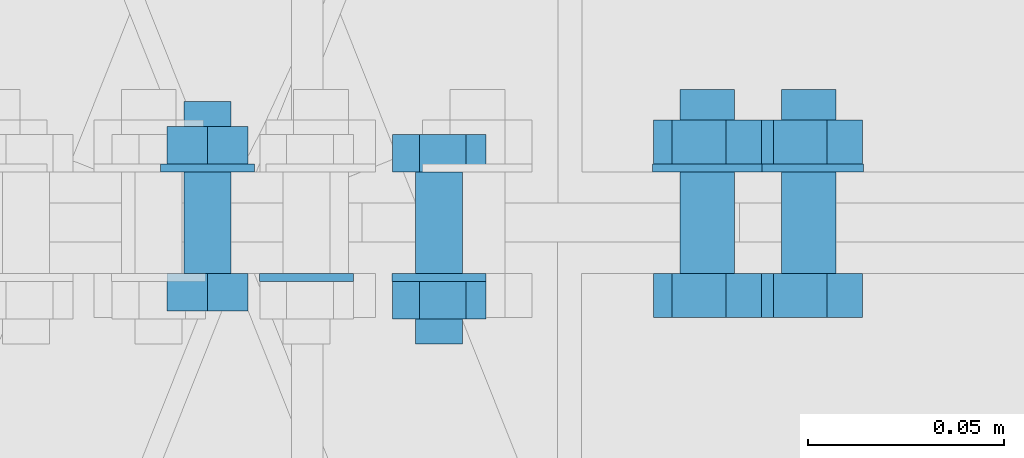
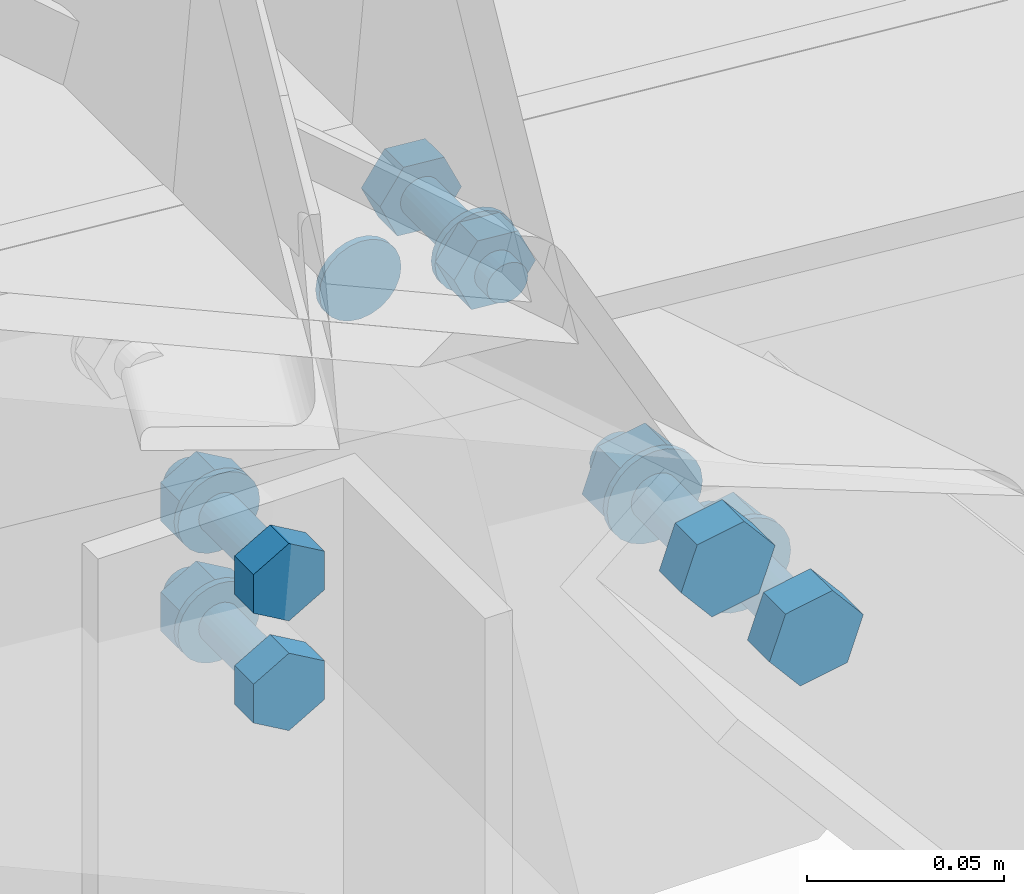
# One storey, part 159 of 251: 21 mechanical fasteners.
"""IFC4 building model written with IfcOpenShell, lengths in metres."""

from ifc_helpers import new_model, si_unit, frame, origin_with_axes, place, context, project, spatial, polyline, outline, extrude, type_object, element, save


model = new_model("IFC4")

# Units and contexts
model_context = context("Model", 3, precision=1e-05, world=origin_with_axes())
ifc_project = project(units=[si_unit("LENGTHUNIT", "METRE"), si_unit("AREAUNIT", "SQUARE_METRE"), si_unit("VOLUMEUNIT", "CUBIC_METRE"), si_unit("MASSUNIT", "GRAM", prefix="KILO"), si_unit("TIMEUNIT", "SECOND"), si_unit("PLANEANGLEUNIT", "RADIAN"), si_unit("SOLIDANGLEUNIT", "STERADIAN"), si_unit("THERMODYNAMICTEMPERATUREUNIT", "DEGREE_CELSIUS")], contexts=[model_context])

# Site, building, storey
placement_1 = place(None, origin_with_axes())
site = spatial("IfcSite", under=ifc_project, at=placement_1, Name="Italia", CompositionType="ELEMENT")
building = spatial("IfcBuilding", under=site, at=placement_1, Name="Deposito", CompositionType="ELEMENT")
storey = spatial("IfcBuildingStorey", under=building, at=placement_1, Name="Storey 0", CompositionType="ELEMENT", Elevation=0.0)

# Mechanical fasteners
mechanical_fastener_type_1 = type_object("IfcMechanicalFastenerType", Name="Reticolare 4", PredefinedType="BOLT")
placement_2 = place(placement_1, origin_with_axes())
mechanical_fastener_1_placement = place(placement_2, origin_with_axes())
element("IfcMechanicalFastener", 1, at=mechanical_fastener_1_placement, inside=storey, type_object=mechanical_fastener_type_1, Name="Reticolare 4", NominalDiameter=0.024, context=model_context, shape_type="SweptSolid", body=[
    extrude(outline(polyline([(0.0, 0.0), (-0.000408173, -0.00310564), (-0.00160599, -0.00600004), (-0.00351334, -0.00848532), (-0.00599861, -0.0103922), (-0.00889397, -0.011591), (-0.0119991, -0.0120001), (-0.0151043, -0.011591), (-0.0179996, -0.0103922), (-0.0204849, -0.00848532), (-0.0223923, -0.00600004), (-0.0235901, -0.00310564), (-0.0239983, 0.0), (-0.0235901, 0.00310564), (-0.0223923, 0.00600004), (-0.0204849, 0.00848532), (-0.0179996, 0.0103922), (-0.0151043, 0.011591), (-0.0119991, 0.0120001), (-0.00889397, 0.011591), (-0.00599861, 0.0103922), (-0.00351334, 0.00848532), (-0.00160599, 0.00600004), (-0.000408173, 0.00310564), (0.0, 0.0)])), frame((18.0139, 9.985, 6.16568), z_axis=(0.0, 1.0, 0.0), x_axis=(-1.0, 0.0, 0.0)), (0.0, 0.0, 1.0), 0.00200081),
])
mechanical_fastener_type_2 = type_object("IfcMechanicalFastenerType", Name="Reticolare 4", PredefinedType="BOLT")
mechanical_fastener_2_placement = place(placement_2, origin_with_axes())
element("IfcMechanicalFastener", 2, at=mechanical_fastener_2_placement, inside=storey, type_object=mechanical_fastener_type_2, Name="Reticolare 4", NominalDiameter=0.011999, context=model_context, shape_type="SweptSolid", body=[
    extrude(outline(polyline([(0.0, 0.0), (0.0119534, 0.0010457), (0.018837, -0.00878382), (0.0137653, -0.0196595), (0.00181007, -0.0207052), (-0.00507164, -0.0108757), (0.0, 0.0)])), frame((18.0667, 10.013, 6.17255), z_axis=(0.0, 1.0, 0.0), x_axis=(-1.0, 0.0, 0.0)), (0.0, 0.0, 1.0), 0.00960064),
])
mechanical_fastener_type_3 = type_object("IfcMechanicalFastenerType", Name="Reticolare 4", PredefinedType="BOLT")
mechanical_fastener_3_placement = place(placement_2, origin_with_axes())
element("IfcMechanicalFastener", 3, at=mechanical_fastener_3_placement, inside=storey, type_object=mechanical_fastener_type_3, Name="Reticolare 4", NominalDiameter=0.012, context=model_context, shape_type="SweptSolid", body=[
    extrude(outline(polyline([(0.0, 0.0), (-0.000204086, -0.00155306), (-0.000804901, -0.00299978), (-0.00175858, -0.00424242), (-0.00300026, -0.00519609), (-0.00444794, -0.00579548), (-0.00600052, -0.00600004), (-0.0075531, -0.00579548), (-0.00900078, -0.00519609), (-0.0102425, -0.00424242), (-0.0111961, -0.00299978), (-0.011797, -0.00155306), (-0.012001, 0.0), (-0.011797, 0.00155306), (-0.0111961, 0.00299978), (-0.0102425, 0.00424242), (-0.00900078, 0.00519609), (-0.0075531, 0.00579548), (-0.00600052, 0.00600004), (-0.00444794, 0.00579548), (-0.00300026, 0.00519609), (-0.00175858, 0.00424242), (-0.000804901, 0.00299978), (-0.000204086, 0.00155306), (0.0, 0.0)])), frame((18.0538, 9.969, 6.16272), z_axis=(0.0, 1.0, 0.0), x_axis=(-1.0, 0.0, 0.0)), (0.0, 0.0, 1.0), 0.0439997),
])
mechanical_fastener_type_4 = type_object("IfcMechanicalFastenerType", Name="Reticolare 4", PredefinedType="BOLT")
mechanical_fastener_4_placement = place(placement_2, origin_with_axes())
element("IfcMechanicalFastener", 4, at=mechanical_fastener_4_placement, inside=storey, type_object=mechanical_fastener_type_4, Name="Reticolare 4", NominalDiameter=0.011999, context=model_context, shape_type="SweptSolid", body=[
    extrude(outline(polyline([(0.0, 0.0), (0.0119534, 0.0010457), (0.018837, -0.00878382), (0.0137653, -0.0196595), (0.00181007, -0.0207052), (-0.00507164, -0.0108757), (0.0, 0.0)])), frame((18.0667, 9.9754, 6.17255), z_axis=(0.0, 1.0, 0.0), x_axis=(-1.0, 0.0, 0.0)), (0.0, 0.0, 1.0), 0.00959969),
])
mechanical_fastener_type_5 = type_object("IfcMechanicalFastenerType", Name="Reticolare 4", PredefinedType="BOLT")
mechanical_fastener_5_placement = place(placement_2, origin_with_axes())
element("IfcMechanicalFastener", 5, at=mechanical_fastener_5_placement, inside=storey, type_object=mechanical_fastener_type_5, Name="Reticolare 4", NominalDiameter=0.024, context=model_context, shape_type="SweptSolid", body=[
    extrude(outline(polyline([(0.0, 0.0), (-0.000408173, -0.00310564), (-0.00160599, -0.00600004), (-0.00351334, -0.00848532), (-0.00599861, -0.0103922), (-0.00889397, -0.011591), (-0.0119991, -0.0120001), (-0.0151043, -0.011591), (-0.0179996, -0.0103922), (-0.0204849, -0.00848532), (-0.0223923, -0.00600004), (-0.0235901, -0.00310564), (-0.0239983, 0.0), (-0.0235901, 0.00310564), (-0.0223923, 0.00600004), (-0.0204849, 0.00848532), (-0.0179996, 0.0103922), (-0.0151043, 0.011591), (-0.0119991, 0.0120001), (-0.00889397, 0.011591), (-0.00599861, 0.0103922), (-0.00351334, 0.00848532), (-0.00160599, 0.00600004), (-0.000408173, 0.00310564), (0.0, 0.0)])), frame((18.0478, 9.985, 6.16272), z_axis=(0.0, 1.0, 0.0), x_axis=(-1.0, 0.0, 0.0)), (0.0, 0.0, 1.0), 0.00200081),
])
mechanical_fastener_type_6 = type_object("IfcMechanicalFastenerType", Name="Reticolare 4", PredefinedType="BOLT")
mechanical_fastener_6_placement = place(placement_2, origin_with_axes())
element("IfcMechanicalFastener", 6, at=mechanical_fastener_6_placement, inside=storey, type_object=mechanical_fastener_type_6, Name="Reticolare 4", NominalDiameter=0.0120001, context=model_context, shape_type="SweptSolid", body=[
    extrude(outline(polyline([(0.0, 0.0), (0.0, -0.0120001), (-0.0103931, -0.0180001), (-0.0207863, -0.0120001), (-0.0207863, 0.0), (-0.0103931, 0.00600004), (0.0, 0.0)])), frame((18.011, 9.987, 6.09155), z_axis=(0.0, -1.0, 0.0), x_axis=(1.0, 0.0, 0.0)), (0.0, 0.0, 1.0), 0.00960064),
])
mechanical_fastener_type_7 = type_object("IfcMechanicalFastenerType", Name="Reticolare 4", PredefinedType="BOLT")
mechanical_fastener_7_placement = place(placement_2, origin_with_axes())
element("IfcMechanicalFastener", 7, at=mechanical_fastener_7_placement, inside=storey, type_object=mechanical_fastener_type_7, Name="Reticolare 4", NominalDiameter=0.012, context=model_context, shape_type="SweptSolid", body=[
    extrude(outline(polyline([(0.0, 0.0), (-0.000204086, -0.00155306), (-0.000804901, -0.00299978), (-0.00175858, -0.00424242), (-0.00300026, -0.00519609), (-0.00444794, -0.00579548), (-0.00600052, -0.00600004), (-0.0075531, -0.00579548), (-0.00900078, -0.00519609), (-0.0102425, -0.00424242), (-0.0111961, -0.00299978), (-0.011797, -0.00155306), (-0.012001, 0.0), (-0.011797, 0.00155306), (-0.0111961, 0.00299978), (-0.0102425, 0.00424242), (-0.00900078, 0.00519609), (-0.0075531, 0.00579548), (-0.00600052, 0.00600004), (-0.00444794, 0.00579548), (-0.00300026, 0.00519609), (-0.00175858, 0.00424242), (-0.000804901, 0.00299978), (-0.000204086, 0.00155306), (0.0, 0.0)])), frame((18.0066, 10.031, 6.08555), z_axis=(0.0, -1.0, 0.0), x_axis=(1.0, 0.0, 0.0)), (0.0, 0.0, 1.0), 0.0439997),
])
mechanical_fastener_type_8 = type_object("IfcMechanicalFastenerType", Name="Reticolare 4", PredefinedType="BOLT")
mechanical_fastener_8_placement = place(placement_2, origin_with_axes())
element("IfcMechanicalFastener", 8, at=mechanical_fastener_8_placement, inside=storey, type_object=mechanical_fastener_type_8, Name="Reticolare 4", NominalDiameter=0.0120001, context=model_context, shape_type="SweptSolid", body=[
    extrude(outline(polyline([(0.0, 0.0), (0.0, -0.0120001), (-0.0103931, -0.0180001), (-0.0207863, -0.0120001), (-0.0207863, 0.0), (-0.0103931, 0.00600004), (0.0, 0.0)])), frame((18.011, 10.0246, 6.09155), z_axis=(0.0, -1.0, 0.0), x_axis=(1.0, 0.0, 0.0)), (0.0, 0.0, 1.0), 0.00959969),
])
mechanical_fastener_type_9 = type_object("IfcMechanicalFastenerType", Name="Reticolare 4", PredefinedType="BOLT")
mechanical_fastener_9_placement = place(placement_2, origin_with_axes())
element("IfcMechanicalFastener", 9, at=mechanical_fastener_9_placement, inside=storey, type_object=mechanical_fastener_type_9, Name="Reticolare 4", NominalDiameter=0.024, context=model_context, shape_type="SweptSolid", body=[
    extrude(outline(polyline([(0.0, 0.0), (-0.000408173, -0.00310564), (-0.00160599, -0.00600004), (-0.00351334, -0.00848532), (-0.00599861, -0.0103922), (-0.00889397, -0.011591), (-0.0119991, -0.0120001), (-0.0151043, -0.011591), (-0.0179996, -0.0103922), (-0.0204849, -0.00848532), (-0.0223923, -0.00600004), (-0.0235901, -0.00310564), (-0.0239983, 0.0), (-0.0235901, 0.00310564), (-0.0223923, 0.00600004), (-0.0204849, 0.00848532), (-0.0179996, 0.0103922), (-0.0151043, 0.011591), (-0.0119991, 0.0120001), (-0.00889397, 0.011591), (-0.00599861, 0.0103922), (-0.00351334, 0.00848532), (-0.00160599, 0.00600004), (-0.000408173, 0.00310564), (0.0, 0.0)])), frame((18.0126, 10.015, 6.08555), z_axis=(0.0, -1.0, 0.0), x_axis=(1.0, 0.0, 0.0)), (0.0, 0.0, 1.0), 0.00200081),
])
mechanical_fastener_type_10 = type_object("IfcMechanicalFastenerType", Name="Reticolare 4", PredefinedType="BOLT")
mechanical_fastener_10_placement = place(placement_2, origin_with_axes())
element("IfcMechanicalFastener", 10, at=mechanical_fastener_10_placement, inside=storey, type_object=mechanical_fastener_type_10, Name="Reticolare 4", NominalDiameter=0.0120001, context=model_context, shape_type="SweptSolid", body=[
    extrude(outline(polyline([(0.0, 0.0), (0.0, -0.0120001), (-0.0103931, -0.0180001), (-0.0207863, -0.0120001), (-0.0207863, 0.0), (-0.0103931, 0.00600004), (0.0, 0.0)])), frame((18.011, 9.987, 6.05755), z_axis=(0.0, -1.0, 0.0), x_axis=(1.0, 0.0, 0.0)), (0.0, 0.0, 1.0), 0.00960064),
])
mechanical_fastener_type_11 = type_object("IfcMechanicalFastenerType", Name="Reticolare 4", PredefinedType="BOLT")
mechanical_fastener_11_placement = place(placement_2, origin_with_axes())
element("IfcMechanicalFastener", 11, at=mechanical_fastener_11_placement, inside=storey, type_object=mechanical_fastener_type_11, Name="Reticolare 4", NominalDiameter=0.012, context=model_context, shape_type="SweptSolid", body=[
    extrude(outline(polyline([(0.0, 0.0), (-0.000204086, -0.00155306), (-0.000804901, -0.00299978), (-0.00175858, -0.00424242), (-0.00300026, -0.00519609), (-0.00444794, -0.00579548), (-0.00600052, -0.00600004), (-0.0075531, -0.00579548), (-0.00900078, -0.00519609), (-0.0102425, -0.00424242), (-0.0111961, -0.00299978), (-0.011797, -0.00155306), (-0.012001, 0.0), (-0.011797, 0.00155306), (-0.0111961, 0.00299978), (-0.0102425, 0.00424242), (-0.00900078, 0.00519609), (-0.0075531, 0.00579548), (-0.00600052, 0.00600004), (-0.00444794, 0.00579548), (-0.00300026, 0.00519609), (-0.00175858, 0.00424242), (-0.000804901, 0.00299978), (-0.000204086, 0.00155306), (0.0, 0.0)])), frame((18.0066, 10.031, 6.05155), z_axis=(0.0, -1.0, 0.0), x_axis=(1.0, 0.0, 0.0)), (0.0, 0.0, 1.0), 0.0439997),
])
mechanical_fastener_type_12 = type_object("IfcMechanicalFastenerType", Name="Reticolare 4", PredefinedType="BOLT")
mechanical_fastener_12_placement = place(placement_2, origin_with_axes())
element("IfcMechanicalFastener", 12, at=mechanical_fastener_12_placement, inside=storey, type_object=mechanical_fastener_type_12, Name="Reticolare 4", NominalDiameter=0.0120001, context=model_context, shape_type="SweptSolid", body=[
    extrude(outline(polyline([(0.0, 0.0), (0.0, -0.0120001), (-0.0103931, -0.0180001), (-0.0207863, -0.0120001), (-0.0207863, 0.0), (-0.0103931, 0.00600004), (0.0, 0.0)])), frame((18.011, 10.0246, 6.05755), z_axis=(0.0, -1.0, 0.0), x_axis=(1.0, 0.0, 0.0)), (0.0, 0.0, 1.0), 0.00959969),
])
mechanical_fastener_type_13 = type_object("IfcMechanicalFastenerType", Name="Reticolare 4", PredefinedType="BOLT")
mechanical_fastener_13_placement = place(placement_2, origin_with_axes())
element("IfcMechanicalFastener", 13, at=mechanical_fastener_13_placement, inside=storey, type_object=mechanical_fastener_type_13, Name="Reticolare 4", NominalDiameter=0.024, context=model_context, shape_type="SweptSolid", body=[
    extrude(outline(polyline([(0.0, 0.0), (-0.000408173, -0.00310564), (-0.00160599, -0.00600004), (-0.00351334, -0.00848532), (-0.00599861, -0.0103922), (-0.00889397, -0.011591), (-0.0119991, -0.0120001), (-0.0151043, -0.011591), (-0.0179996, -0.0103922), (-0.0204849, -0.00848532), (-0.0223923, -0.00600004), (-0.0235901, -0.00310564), (-0.0239983, 0.0), (-0.0235901, 0.00310564), (-0.0223923, 0.00600004), (-0.0204849, 0.00848532), (-0.0179996, 0.0103922), (-0.0151043, 0.011591), (-0.0119991, 0.0120001), (-0.00889397, 0.011591), (-0.00599861, 0.0103922), (-0.00351334, 0.00848532), (-0.00160599, 0.00600004), (-0.000408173, 0.00310564), (0.0, 0.0)])), frame((18.0126, 10.015, 6.05155), z_axis=(0.0, -1.0, 0.0), x_axis=(1.0, 0.0, 0.0)), (0.0, 0.0, 1.0), 0.00200081),
])
mechanical_fastener_type_14 = type_object("IfcMechanicalFastenerType", Name="Reticolare 4", PredefinedType="BOLT")
mechanical_fastener_14_placement = place(placement_2, origin_with_axes())
element("IfcMechanicalFastener", 14, at=mechanical_fastener_14_placement, inside=storey, type_object=mechanical_fastener_type_14, Name="Reticolare 4", NominalDiameter=0.013999, context=model_context, shape_type="SweptSolid", body=[
    extrude(outline(polyline([(0.0, 0.0), (-0.009058, 0.0106759), (-0.00433922, 0.0238571), (0.00943375, 0.0263624), (0.0184898, 0.0156865), (0.013773, 0.0025053), (0.0, 0.0)])), frame((18.1237, 9.987, 6.03264), z_axis=(0.0, -1.0, 0.0), x_axis=(1.0, 0.0, 0.0)), (0.0, 0.0, 1.0), 0.0112009),
])
mechanical_fastener_type_15 = type_object("IfcMechanicalFastenerType", Name="Reticolare 4", PredefinedType="BOLT")
mechanical_fastener_15_placement = place(placement_2, origin_with_axes())
element("IfcMechanicalFastener", 15, at=mechanical_fastener_15_placement, inside=storey, type_object=mechanical_fastener_type_15, Name="Reticolare 4", NominalDiameter=0.014, context=model_context, shape_type="SweptSolid", body=[
    extrude(outline(polyline([(0.0, 0.0), (-0.000238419, -0.0018115), (-0.000938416, -0.00349998), (-0.0020504, -0.00494957), (-0.00349998, -0.00606203), (-0.00518799, -0.00676155), (-0.00699997, -0.00699997), (-0.00881195, -0.00676155), (-0.0105, -0.00606203), (-0.0119495, -0.00494957), (-0.0130615, -0.00349998), (-0.0137615, -0.0018115), (-0.0139999, 0.0), (-0.0137615, 0.0018115), (-0.0130615, 0.00349998), (-0.0119495, 0.00494957), (-0.0105, 0.00606203), (-0.00881195, 0.00676155), (-0.00699997, 0.00699997), (-0.00518799, 0.00676155), (-0.00349998, 0.00606203), (-0.0020504, 0.00494957), (-0.000938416, 0.00349998), (-0.000238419, 0.0018115), (0.0, 0.0)])), frame((18.1354, 10.034, 6.04582), z_axis=(0.0, -1.0, 0.0), x_axis=(1.0, 0.0, 0.0)), (0.0, 0.0, 1.0), 0.0469999),
])
mechanical_fastener_type_16 = type_object("IfcMechanicalFastenerType", Name="Reticolare 4", PredefinedType="BOLT")
mechanical_fastener_16_placement = place(placement_2, origin_with_axes())
element("IfcMechanicalFastener", 16, at=mechanical_fastener_16_placement, inside=storey, type_object=mechanical_fastener_type_16, Name="Reticolare 4", NominalDiameter=0.013999, context=model_context, shape_type="SweptSolid", body=[
    extrude(outline(polyline([(0.0, 0.0), (-0.009058, 0.0106759), (-0.00433922, 0.0238571), (0.00943375, 0.0263624), (0.0184898, 0.0156865), (0.013773, 0.0025053), (0.0, 0.0)])), frame((18.1237, 10.0262, 6.03264), z_axis=(0.0, -1.0, 0.0), x_axis=(1.0, 0.0, 0.0)), (0.0, 0.0, 1.0), 0.0112),
])
mechanical_fastener_type_17 = type_object("IfcMechanicalFastenerType", Name="Reticolare 4", PredefinedType="BOLT")
mechanical_fastener_17_placement = place(placement_2, origin_with_axes())
element("IfcMechanicalFastener", 17, at=mechanical_fastener_17_placement, inside=storey, type_object=mechanical_fastener_type_17, Name="Reticolare 4", NominalDiameter=0.028, context=model_context, shape_type="SweptSolid", body=[
    extrude(outline(polyline([(0.0, 0.0), (-0.000476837, -0.00362349), (-0.00187492, -0.00699997), (-0.0041008, -0.00989962), (-0.00699997, -0.0121245), (-0.010376, -0.0135231), (-0.0139999, -0.0139999), (-0.0176239, -0.0135231), (-0.0209999, -0.0121245), (-0.0238991, -0.00989962), (-0.026125, -0.00699997), (-0.027523, -0.00362349), (-0.0279999, 0.0), (-0.027523, 0.00362349), (-0.026125, 0.00699997), (-0.0238991, 0.00989962), (-0.0209999, 0.0121245), (-0.0176239, 0.0135231), (-0.0139999, 0.0139999), (-0.010376, 0.0135231), (-0.00699997, 0.0121245), (-0.0041008, 0.00989962), (-0.00187492, 0.00699997), (-0.000476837, 0.00362349), (0.0, 0.0)])), frame((18.1424, 10.015, 6.04582), z_axis=(0.0, -1.0, 0.0), x_axis=(1.0, 0.0, 0.0)), (0.0, 0.0, 1.0), 0.00200081),
])
mechanical_fastener_type_18 = type_object("IfcMechanicalFastenerType", Name="Reticolare 4", PredefinedType="BOLT")
mechanical_fastener_18_placement = place(placement_2, origin_with_axes())
element("IfcMechanicalFastener", 18, at=mechanical_fastener_18_placement, inside=storey, type_object=mechanical_fastener_type_18, Name="Reticolare 4", NominalDiameter=0.0139996, context=model_context, shape_type="SweptSolid", body=[
    extrude(outline(polyline([(0.0, 0.0), (-0.00905609, 0.0106759), (-0.00433922, 0.0238571), (0.00943565, 0.0263624), (0.0184917, 0.0156865), (0.0137749, 0.0025053), (0.0, 0.0)])), frame((18.1496, 9.987, 6.00214), z_axis=(0.0, -1.0, 0.0), x_axis=(1.0, 0.0, 0.0)), (0.0, 0.0, 1.0), 0.0112009),
])
mechanical_fastener_type_19 = type_object("IfcMechanicalFastenerType", Name="Reticolare 4", PredefinedType="BOLT")
mechanical_fastener_19_placement = place(placement_2, origin_with_axes())
element("IfcMechanicalFastener", 19, at=mechanical_fastener_19_placement, inside=storey, type_object=mechanical_fastener_type_19, Name="Reticolare 4", NominalDiameter=0.014, context=model_context, shape_type="SweptSolid", body=[
    extrude(outline(polyline([(0.0, 0.0), (-0.000238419, -0.0018115), (-0.000938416, -0.00349998), (-0.0020504, -0.00494957), (-0.00349998, -0.00606203), (-0.00518799, -0.00676155), (-0.00699997, -0.00699997), (-0.00881195, -0.00676155), (-0.0105, -0.00606203), (-0.0119495, -0.00494957), (-0.0130615, -0.00349998), (-0.0137615, -0.0018115), (-0.0139999, 0.0), (-0.0137615, 0.0018115), (-0.0130615, 0.00349998), (-0.0119495, 0.00494957), (-0.0105, 0.00606203), (-0.00881195, 0.00676155), (-0.00699997, 0.00699997), (-0.00518799, 0.00676155), (-0.00349998, 0.00606203), (-0.0020504, 0.00494957), (-0.000938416, 0.00349998), (-0.000238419, 0.0018115), (0.0, 0.0)])), frame((18.1613, 10.034, 6.01532), z_axis=(0.0, -1.0, 0.0), x_axis=(1.0, 0.0, 0.0)), (0.0, 0.0, 1.0), 0.0469999),
])
mechanical_fastener_type_20 = type_object("IfcMechanicalFastenerType", Name="Reticolare 4", PredefinedType="BOLT")
mechanical_fastener_20_placement = place(placement_2, origin_with_axes())
element("IfcMechanicalFastener", 20, at=mechanical_fastener_20_placement, inside=storey, type_object=mechanical_fastener_type_20, Name="Reticolare 4", NominalDiameter=0.0139996, context=model_context, shape_type="SweptSolid", body=[
    extrude(outline(polyline([(0.0, 0.0), (-0.00905609, 0.0106759), (-0.00433922, 0.0238571), (0.00943565, 0.0263624), (0.0184917, 0.0156865), (0.0137749, 0.0025053), (0.0, 0.0)])), frame((18.1496, 10.0262, 6.00214), z_axis=(0.0, -1.0, 0.0), x_axis=(1.0, 0.0, 0.0)), (0.0, 0.0, 1.0), 0.0112),
])
mechanical_fastener_type_21 = type_object("IfcMechanicalFastenerType", Name="Reticolare 4", PredefinedType="BOLT")
mechanical_fastener_21_placement = place(placement_2, origin_with_axes())
element("IfcMechanicalFastener", 21, at=mechanical_fastener_21_placement, inside=storey, type_object=mechanical_fastener_type_21, Name="Reticolare 4", NominalDiameter=0.028, context=model_context, shape_type="SweptSolid", body=[
    extrude(outline(polyline([(0.0, 0.0), (-0.000476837, -0.00362349), (-0.00187492, -0.00699997), (-0.0041008, -0.00989962), (-0.00699997, -0.0121245), (-0.010376, -0.0135231), (-0.0139999, -0.0139999), (-0.0176239, -0.0135231), (-0.0209999, -0.0121245), (-0.0238991, -0.00989962), (-0.026125, -0.00699997), (-0.027523, -0.00362349), (-0.0279999, 0.0), (-0.027523, 0.00362349), (-0.026125, 0.00699997), (-0.0238991, 0.00989962), (-0.0209999, 0.0121245), (-0.0176239, 0.0135231), (-0.0139999, 0.0139999), (-0.010376, 0.0135231), (-0.00699997, 0.0121245), (-0.0041008, 0.00989962), (-0.00187492, 0.00699997), (-0.000476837, 0.00362349), (0.0, 0.0)])), frame((18.1683, 10.015, 6.01532), z_axis=(0.0, -1.0, 0.0), x_axis=(1.0, 0.0, 0.0)), (0.0, 0.0, 1.0), 0.00200081),
])

save(model, "model.ifc")
